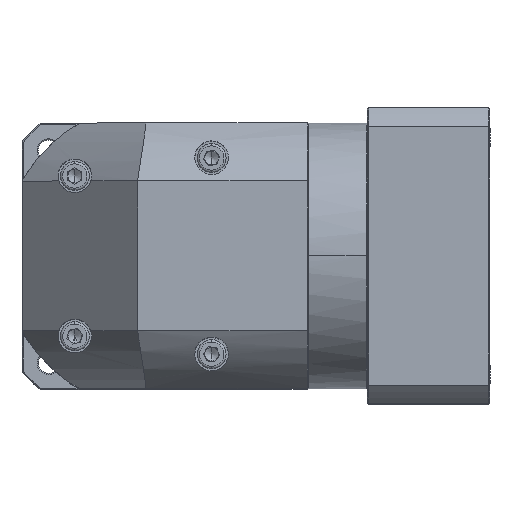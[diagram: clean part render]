
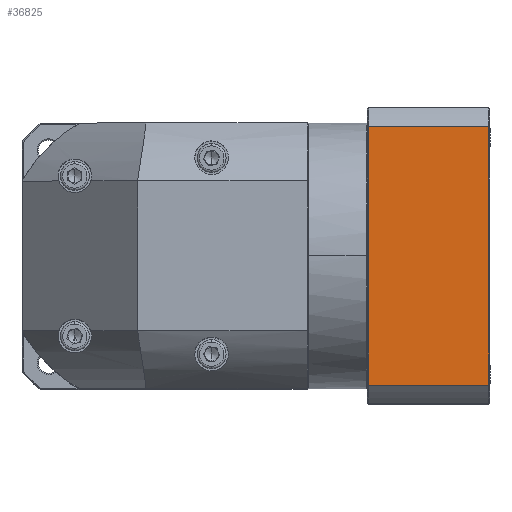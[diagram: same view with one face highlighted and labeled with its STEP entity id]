
A CAD part, top view. The second image highlights one B-rep face of the part: STEP entity #36825.
In plain terms, the highlighted planar face has unit normal (0, 0, 1).
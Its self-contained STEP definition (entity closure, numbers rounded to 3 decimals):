
#1442 = EDGE_CURVE ( 'NONE', #73517, #94503, #79267, .T. ) ;
#3999 = DIRECTION ( 'NONE',  ( -1., 0., 0. ) ) ;
#4652 = VECTOR ( 'NONE', #6664, 1000. ) ;
#6664 = DIRECTION ( 'NONE',  ( 0., -1., 0. ) ) ;
#15243 = CARTESIAN_POINT ( 'NONE',  ( -114.602, 19.599, 77.821 ) ) ;
#19681 = LINE ( 'NONE', #59439, #4652 ) ;
#21346 = CARTESIAN_POINT ( 'NONE',  ( 128.718, 19.599, 77.821 ) ) ;
#22648 = VECTOR ( 'NONE', #3999, 1000. ) ;
#22752 = DIRECTION ( 'NONE',  ( 0., -1., 0. ) ) ;
#25301 = EDGE_CURVE ( 'NONE', #94503, #82343, #100357, .T. ) ;
#25834 = CARTESIAN_POINT ( 'NONE',  ( 180.718, 19.599, 77.821 ) ) ;
#30793 = CARTESIAN_POINT ( 'NONE',  ( 128.718, 139.537, 77.821 ) ) ;
#32942 = CARTESIAN_POINT ( 'NONE',  ( -114.602, 131.474, 77.821 ) ) ;
#34786 = CARTESIAN_POINT ( 'NONE',  ( 128.718, 131.474, 77.821 ) ) ;
#36435 = CARTESIAN_POINT ( 'NONE',  ( 180.718, 131.474, 77.821 ) ) ;
#36825 = ADVANCED_FACE ( 'NONE', ( #100422 ), #117068, .F. ) ;
#41346 = ORIENTED_EDGE ( 'NONE', *, *, #44003, .F. ) ;
#44003 = EDGE_CURVE ( 'NONE', #107664, #73517, #19681, .T. ) ;
#44716 = EDGE_LOOP ( 'NONE', ( #47633, #84681, #135746, #41346 ) ) ;
#47633 = ORIENTED_EDGE ( 'NONE', *, *, #58755, .F. ) ;
#54079 = DIRECTION ( 'NONE',  ( 0., 1., 0. ) ) ;
#54948 = DIRECTION ( 'NONE',  ( 0., 0., -1. ) ) ;
#58755 = EDGE_CURVE ( 'NONE', #82343, #107664, #83584, .T. ) ;
#59439 = CARTESIAN_POINT ( 'NONE',  ( 180.718, 139.537, 77.821 ) ) ;
#73517 = VERTEX_POINT ( 'NONE', #25834 ) ;
#76905 = VECTOR ( 'NONE', #105911, 1000. ) ;
#79267 = LINE ( 'NONE', #15243, #22648 ) ;
#80426 = VECTOR ( 'NONE', #54079, 1000. ) ;
#82343 = VERTEX_POINT ( 'NONE', #34786 ) ;
#83584 = LINE ( 'NONE', #32942, #76905 ) ;
#84681 = ORIENTED_EDGE ( 'NONE', *, *, #25301, .F. ) ;
#86519 = CARTESIAN_POINT ( 'NONE',  ( 181.218, 139.537, 77.821 ) ) ;
#94503 = VERTEX_POINT ( 'NONE', #21346 ) ;
#100357 = LINE ( 'NONE', #30793, #80426 ) ;
#100422 = FACE_OUTER_BOUND ( 'NONE', #44716, .T. ) ;
#102067 = AXIS2_PLACEMENT_3D ( 'NONE', #86519, #54948, #22752 ) ;
#105911 = DIRECTION ( 'NONE',  ( 1., 0., 0. ) ) ;
#107664 = VERTEX_POINT ( 'NONE', #36435 ) ;
#117068 = PLANE ( 'NONE',  #102067 ) ;
#135746 = ORIENTED_EDGE ( 'NONE', *, *, #1442, .F. ) ;
